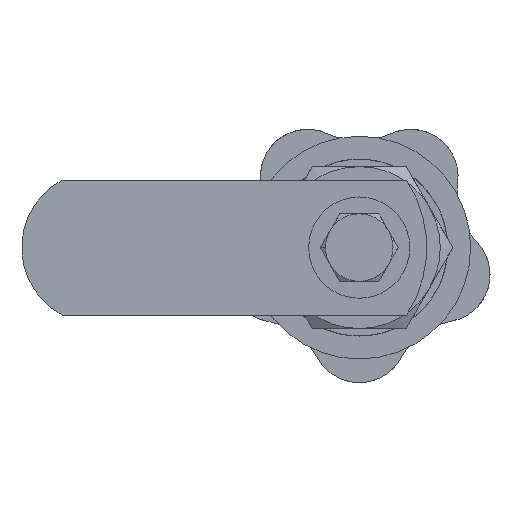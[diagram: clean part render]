
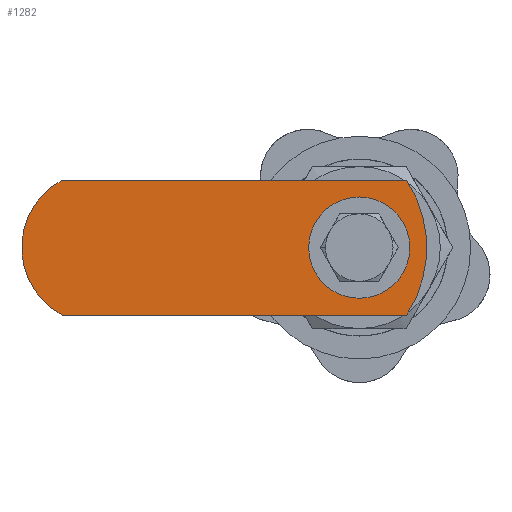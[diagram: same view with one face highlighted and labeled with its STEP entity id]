
A CAD part, front view. The second image highlights one B-rep face of the part: STEP entity #1282.
In plain terms, the highlighted planar face has unit normal (0, -1, 0).
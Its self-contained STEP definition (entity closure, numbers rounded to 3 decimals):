
#28 = DIRECTION ( 'NONE',  ( 0., 0., 1. ) ) ;
#64 = DIRECTION ( 'NONE',  ( 0., 1., 0. ) ) ;
#311 = CARTESIAN_POINT ( 'NONE',  ( 0., 0., -5. ) ) ;
#382 = VERTEX_POINT ( 'NONE', #5784 ) ;
#564 = PLANE ( 'NONE',  #4352 ) ;
#574 = EDGE_CURVE ( 'NONE', #1870, #2301, #5065, .T. ) ;
#658 = EDGE_CURVE ( 'NONE', #1972, #1954, #780, .T. ) ;
#728 = AXIS2_PLACEMENT_3D ( 'NONE', #1722, #64, #28 ) ;
#780 = LINE ( 'NONE', #3630, #5396 ) ;
#790 = DIRECTION ( 'NONE',  ( -1., 0., 0. ) ) ;
#1014 = EDGE_CURVE ( 'NONE', #4301, #3338, #2817, .T. ) ;
#1056 = ORIENTED_EDGE ( 'NONE', *, *, #658, .F. ) ;
#1057 = ORIENTED_EDGE ( 'NONE', *, *, #3470, .F. ) ;
#1077 = VECTOR ( 'NONE', #790, 1000. ) ;
#1082 = CIRCLE ( 'NONE', #728, 11.333 ) ;
#1225 = DIRECTION ( 'NONE',  ( 0., 1., 0. ) ) ;
#1282 = ADVANCED_FACE ( 'NONE', ( #3477, #1786 ), #564, .T. ) ;
#1364 = VECTOR ( 'NONE', #2378, 1000. ) ;
#1412 = CARTESIAN_POINT ( 'NONE',  ( 3.167, 0., 5. ) ) ;
#1474 = CARTESIAN_POINT ( 'NONE',  ( -35.833, 0., -10. ) ) ;
#1652 = VECTOR ( 'NONE', #2080, 1000. ) ;
#1722 = CARTESIAN_POINT ( 'NONE',  ( -30.5, 0., 0. ) ) ;
#1786 = FACE_BOUND ( 'NONE', #3741, .T. ) ;
#1870 = VERTEX_POINT ( 'NONE', #5601 ) ;
#1945 = DIRECTION ( 'NONE',  ( 1., 0., 0. ) ) ;
#1954 = VERTEX_POINT ( 'NONE', #5002 ) ;
#1972 = VERTEX_POINT ( 'NONE', #2676 ) ;
#2080 = DIRECTION ( 'NONE',  ( 1., 0., 0. ) ) ;
#2239 = DIRECTION ( 'NONE',  ( 0., -1., 0. ) ) ;
#2259 = CIRCLE ( 'NONE', #3231, 18.167 ) ;
#2301 = VERTEX_POINT ( 'NONE', #3194 ) ;
#2378 = DIRECTION ( 'NONE',  ( 0., 0., -1. ) ) ;
#2387 = ORIENTED_EDGE ( 'NONE', *, *, #1014, .F. ) ;
#2676 = CARTESIAN_POINT ( 'NONE',  ( -35.833, 0., 10. ) ) ;
#2817 = LINE ( 'NONE', #5668, #3277 ) ;
#2913 = DIRECTION ( 'NONE',  ( 0., 0., -1. ) ) ;
#3175 = ORIENTED_EDGE ( 'NONE', *, *, #6941, .T. ) ;
#3194 = CARTESIAN_POINT ( 'NONE',  ( 13.167, 0., -5. ) ) ;
#3209 = EDGE_CURVE ( 'NONE', #382, #4585, #6883, .T. ) ;
#3231 = AXIS2_PLACEMENT_3D ( 'NONE', #6831, #1225, #4156 ) ;
#3262 = CARTESIAN_POINT ( 'NONE',  ( 15.167, 0., -10. ) ) ;
#3277 = VECTOR ( 'NONE', #5743, 1000. ) ;
#3338 = VERTEX_POINT ( 'NONE', #1474 ) ;
#3470 = EDGE_CURVE ( 'NONE', #3338, #1972, #1082, .T. ) ;
#3477 = FACE_OUTER_BOUND ( 'NONE', #7074, .T. ) ;
#3630 = CARTESIAN_POINT ( 'NONE',  ( 0., 0., 10. ) ) ;
#3741 = EDGE_LOOP ( 'NONE', ( #6593, #5552, #4760, #3175 ) ) ;
#3808 = CARTESIAN_POINT ( 'NONE',  ( 0., 0., 5. ) ) ;
#4156 = DIRECTION ( 'NONE',  ( 0., 0., 1. ) ) ;
#4301 = VERTEX_POINT ( 'NONE', #3262 ) ;
#4352 = AXIS2_PLACEMENT_3D ( 'NONE', #7341, #2239, #2913 ) ;
#4544 = VECTOR ( 'NONE', #6344, 1000. ) ;
#4585 = VERTEX_POINT ( 'NONE', #1412 ) ;
#4760 = ORIENTED_EDGE ( 'NONE', *, *, #574, .T. ) ;
#5002 = CARTESIAN_POINT ( 'NONE',  ( 15.167, 0., 10. ) ) ;
#5065 = LINE ( 'NONE', #5656, #1364 ) ;
#5156 = EDGE_CURVE ( 'NONE', #1954, #4301, #2259, .T. ) ;
#5396 = VECTOR ( 'NONE', #1945, 1000. ) ;
#5552 = ORIENTED_EDGE ( 'NONE', *, *, #6502, .T. ) ;
#5601 = CARTESIAN_POINT ( 'NONE',  ( 13.167, 0., 5. ) ) ;
#5656 = CARTESIAN_POINT ( 'NONE',  ( 13.167, 0., 0. ) ) ;
#5668 = CARTESIAN_POINT ( 'NONE',  ( 0., 0., -10. ) ) ;
#5743 = DIRECTION ( 'NONE',  ( -1., 0., 0. ) ) ;
#5784 = CARTESIAN_POINT ( 'NONE',  ( 3.167, 0., -5. ) ) ;
#5965 = LINE ( 'NONE', #311, #1077 ) ;
#6344 = DIRECTION ( 'NONE',  ( 0., 0., 1. ) ) ;
#6381 = CARTESIAN_POINT ( 'NONE',  ( 3.167, 0., 0. ) ) ;
#6502 = EDGE_CURVE ( 'NONE', #4585, #1870, #7165, .T. ) ;
#6593 = ORIENTED_EDGE ( 'NONE', *, *, #3209, .T. ) ;
#6831 = CARTESIAN_POINT ( 'NONE',  ( 0., 0., 0. ) ) ;
#6883 = LINE ( 'NONE', #6381, #4544 ) ;
#6923 = ORIENTED_EDGE ( 'NONE', *, *, #5156, .F. ) ;
#6941 = EDGE_CURVE ( 'NONE', #2301, #382, #5965, .T. ) ;
#7074 = EDGE_LOOP ( 'NONE', ( #6923, #1056, #1057, #2387 ) ) ;
#7165 = LINE ( 'NONE', #3808, #1652 ) ;
#7341 = CARTESIAN_POINT ( 'NONE',  ( 0., 0., 0. ) ) ;
